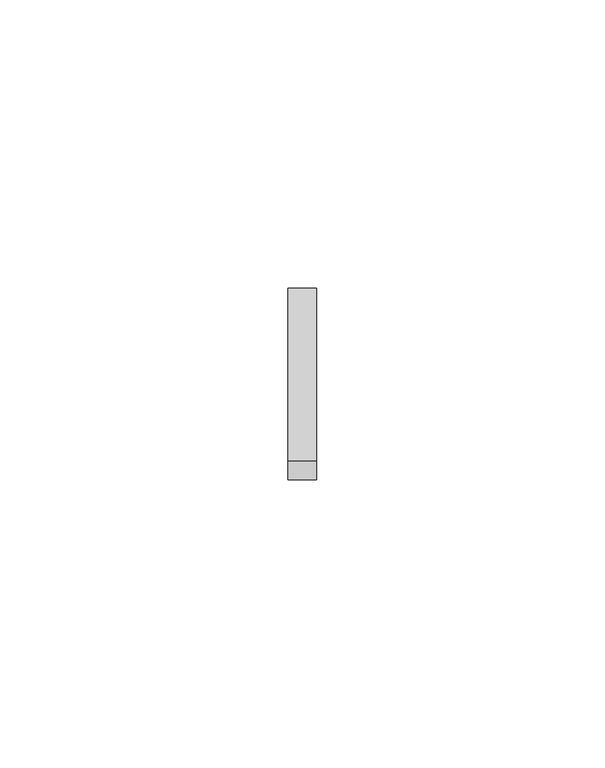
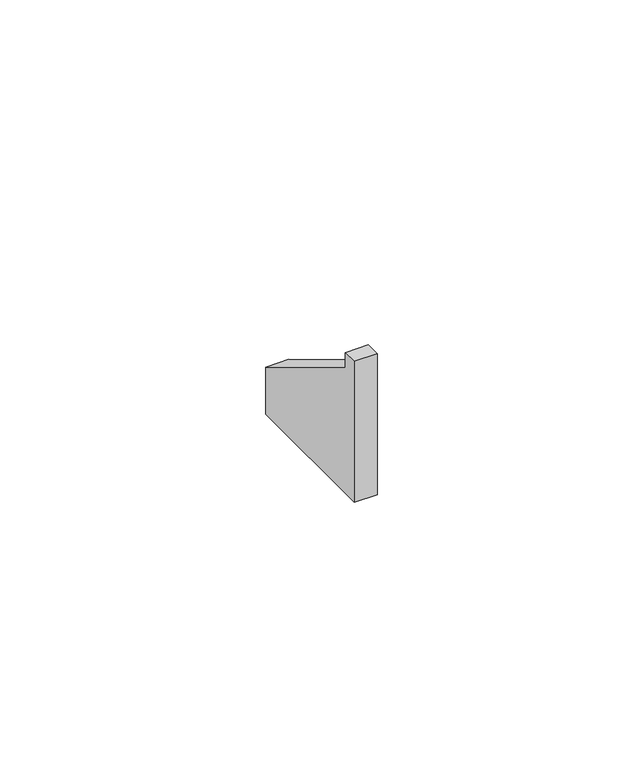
"""IFC4 building model written with IfcOpenShell, lengths in millimetres: proxy geometry, Odbojnik przyścienny K100 : Odbojnik przyścienny K100."""

from ifc_helpers import new_model, si_unit, frame, origin, place, context, project, spatial, polyline, outline, extrude, source, transform, mapped, element, save


def generic_models_74c3f778(model_context):
    return source(origin(), model_context, "Body", "SweptSolid", [
        extrude(outline(polyline([(32.25, -1.0), (-1.0, -1.0), (-1.0, 31.42), (2.25, 31.42), (2.25, 27.9845755), (32.25, 9.8845755), (32.25, -1.0)])), frame((-2.5, 0.0, 0.0), z_axis=(1.0, 0.0, 0.0), x_axis=(0.0, 1.0, 0.0)), (0.0, 0.0, 1.0), 5.0),
    ])


if __name__ == "__main__":
    model = new_model("IFC4")
    model_context = context("Model", 3, world=origin())
    ifc_project = project(units=[si_unit("LENGTHUNIT", "METRE", prefix="MILLI")], contexts=[model_context])
    site = spatial("IfcSite", under=ifc_project)
    building = spatial("IfcBuilding", under=site)
    placement = place(None, origin())
    generic_models_shape = generic_models_74c3f778(model_context)
    element("IfcBuildingElementProxy", 1, Name="Odbojnik przyścienny K100 : Odbojnik przyścienny K100", ObjectType="Odbojnik przyścienny K100 : Odbojnik przyścienny K100", at=placement, inside=building, context=model_context, shape_type="MappedRepresentation", body=[
        mapped(generic_models_shape, transform((0.0, 0.0, 0.0), x_axis=(1.0, 0.0, 0.0), y_axis=(0.0, 1.0, 0.0), z_axis=(0.0, 0.0, 1.0))),
    ])
    save(model, "model.ifc")
